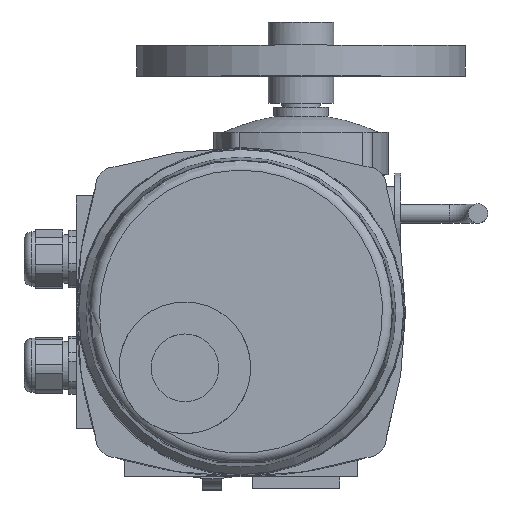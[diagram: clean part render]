
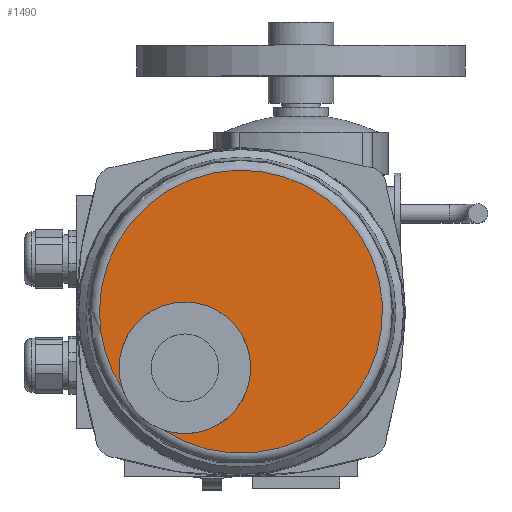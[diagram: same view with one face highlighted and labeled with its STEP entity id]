
A CAD part, top view. The second image highlights one B-rep face of the part: STEP entity #1490.
In plain terms, the highlighted planar face has unit normal (0, 0, 1).
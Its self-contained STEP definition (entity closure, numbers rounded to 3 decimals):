
#1490=ADVANCED_FACE('',(#8417),#8419,.T.);
#8417=FACE_BOUND('',#8418,.T.);
#8418=EDGE_LOOP('',(#13718,#13719,#13720,#13721));
#8419=PLANE('',#8420);
#8420=AXIS2_PLACEMENT_3D('',#8421,#8422,#8423);
#8421=CARTESIAN_POINT('',(15.,35.,391.));
#8422=DIRECTION('',(0.,0.,1.));
#8423=DIRECTION('',(-1.,0.,0.));
#13718=ORIENTED_EDGE('',*,*,#17629,.F.);
#13719=ORIENTED_EDGE('',*,*,#17630,.F.);
#13720=ORIENTED_EDGE('',*,*,#17616,.F.);
#13721=ORIENTED_EDGE('',*,*,#17615,.F.);
#17615=EDGE_CURVE('',#20029,#20032,#20033,.T.);
#17616=EDGE_CURVE('',#20032,#20030,#20034,.T.);
#17629=EDGE_CURVE('',#20055,#20029,#20056,.T.);
#17630=EDGE_CURVE('',#20030,#20055,#20057,.T.);
#20029=VERTEX_POINT('',#24825);
#20030=VERTEX_POINT('',#24826);
#20032=VERTEX_POINT('',#24855);
#20033=CIRCLE('',#24856,73.139);
#20034=CIRCLE('',#24860,73.139);
#20055=VERTEX_POINT('',#24913);
#20056=CIRCLE('',#24914,34.);
#20057=CIRCLE('',#24918,34.);
#24825=CARTESIAN_POINT('',(-46.08,-5.231,391.));
#24826=CARTESIAN_POINT('',(-25.231,-26.08,391.));
#24855=CARTESIAN_POINT('',(-58.139,35.,391.));
#24856=AXIS2_PLACEMENT_3D('',#24857,#24858,#24859);
#24857=CARTESIAN_POINT('',(15.,35.,391.));
#24858=DIRECTION('',(0.,0.,-1.));
#24859=DIRECTION('',(-0.835,-0.55,0.));
#24860=AXIS2_PLACEMENT_3D('',#24861,#24862,#24863);
#24861=CARTESIAN_POINT('',(15.,35.,391.));
#24862=DIRECTION('',(0.,0.,-1.));
#24863=DIRECTION('',(-1.,0.,0.));
#24913=CARTESIAN_POINT('',(-13.991,40.009,391.));
#24914=AXIS2_PLACEMENT_3D('',#24915,#24916,#24917);
#24915=CARTESIAN_POINT('',(-13.991,6.009,391.));
#24916=DIRECTION('',(0.,0.,1.));
#24917=DIRECTION('',(0.,1.,0.));
#24918=AXIS2_PLACEMENT_3D('',#24919,#24920,#24921);
#24919=CARTESIAN_POINT('',(-13.991,6.009,391.));
#24920=DIRECTION('',(0.,0.,1.));
#24921=DIRECTION('',(-0.331,-0.944,0.));
